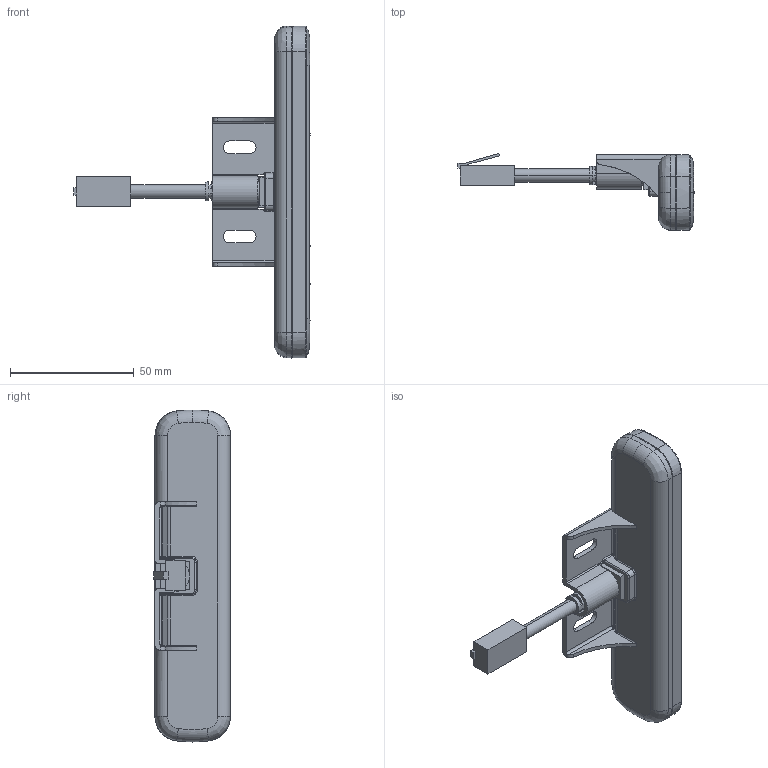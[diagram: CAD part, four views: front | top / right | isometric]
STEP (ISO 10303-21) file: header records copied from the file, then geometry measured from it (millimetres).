
FILE_DESCRIPTION((''),'2;1');
FILE_NAME('AEH-MH_ASM','2019-05-21T',('william tan'),(''),'CREO PARAMETRIC BY PTC INC, 2015080','CREO PARAMETRIC BY PTC INC, 2015080','');
FILE_SCHEMA(());
Length unit declared in the file: millimetre
Products named in the file (8): JCHT35K11_1; JCHT35K11_2; JCHT35K11_3; JCHT35K11_4; JCHT35K11_5; JCHT35K11_6; JCHT35K11_ASM; AEH-MH_ASM
Assembly tree (7 placements, depth 3):
  AEH-MH_ASM
    JCHT35K11_ASM
      JCHT35K11_1
      JCHT35K11_2
      JCHT35K11_3
      JCHT35K11_4
      JCHT35K11_5
      JCHT35K11_6
Bounding box: 95.3 x 31.04 x 134.04 mm (x, y, z)
Volume: 38329.6 mm3; surface area: 47675.4 mm2
Topology: 6 solids, 6 shells, 1546 faces, 4278 edges, 2782 vertices
Faces by surface type: plane 1058, cylinder 250, bspline 87, cone 81, torus 43, sphere 27
Entity records: 56122 total; most frequent: CARTESIAN_POINT 16631, ORIENTED_EDGE 8532, DIRECTION 7746, EDGE_CURVE 4266, VECTOR 2980, LINE 2980, VERTEX_POINT 2782, AXIS2_PLACEMENT_3D 2383
